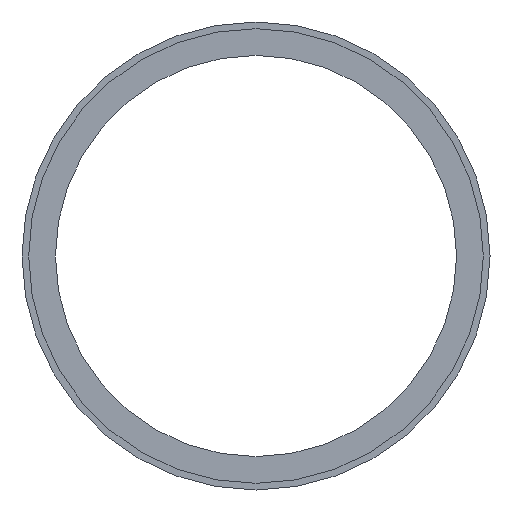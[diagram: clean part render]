
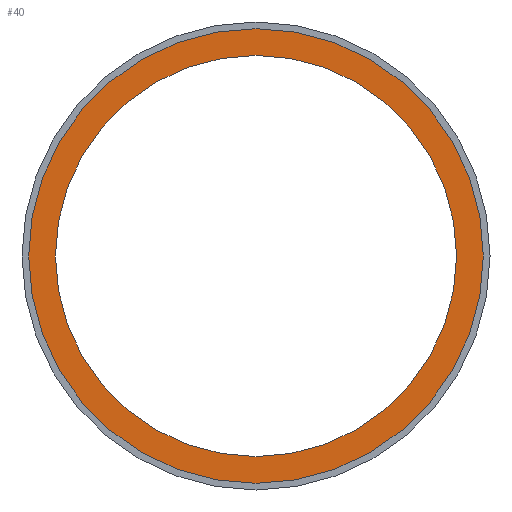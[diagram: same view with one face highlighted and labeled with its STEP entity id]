
A CAD part, front view. The second image highlights one B-rep face of the part: STEP entity #40.
In plain terms, the highlighted planar face has unit normal (0, -1, 0).
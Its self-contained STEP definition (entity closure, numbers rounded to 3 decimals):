
#40 = ADVANCED_FACE( '', ( #81, #82 ), #83, .F. );
#81 = FACE_OUTER_BOUND( '', #120, .T. );
#82 = FACE_BOUND( '', #121, .T. );
#83 = PLANE( '', #122 );
#120 = EDGE_LOOP( '', ( #161 ) );
#121 = EDGE_LOOP( '', ( #162 ) );
#122 = AXIS2_PLACEMENT_3D( '', #163, #164, #165 );
#161 = ORIENTED_EDGE( '', *, *, #191, .T. );
#162 = ORIENTED_EDGE( '', *, *, #186, .F. );
#163 = CARTESIAN_POINT( '', ( 0., 0., 17.5 ) );
#164 = DIRECTION( '', ( 0., 1., 0. ) );
#165 = DIRECTION( '', ( 0., 0., 1. ) );
#186 = EDGE_CURVE( '', #203, #203, #204, .T. );
#191 = EDGE_CURVE( '', #211, #211, #212, .T. );
#203 = VERTEX_POINT( '', #227 );
#204 = CIRCLE( '', #228, 15. );
#211 = VERTEX_POINT( '', #235 );
#212 = CIRCLE( '', #236, 17. );
#227 = CARTESIAN_POINT( '', ( 0., 0., -15. ) );
#228 = AXIS2_PLACEMENT_3D( '', #251, #252, #253 );
#235 = CARTESIAN_POINT( '', ( 0., 0., -17. ) );
#236 = AXIS2_PLACEMENT_3D( '', #260, #261, #262 );
#251 = CARTESIAN_POINT( '', ( 0., 0., 0. ) );
#252 = DIRECTION( '', ( 0., -1., 0. ) );
#253 = DIRECTION( '', ( 0., 0., -1. ) );
#260 = CARTESIAN_POINT( '', ( 0., 0., 0. ) );
#261 = DIRECTION( '', ( 0., -1., 0. ) );
#262 = DIRECTION( '', ( 0., 0., -1. ) );
